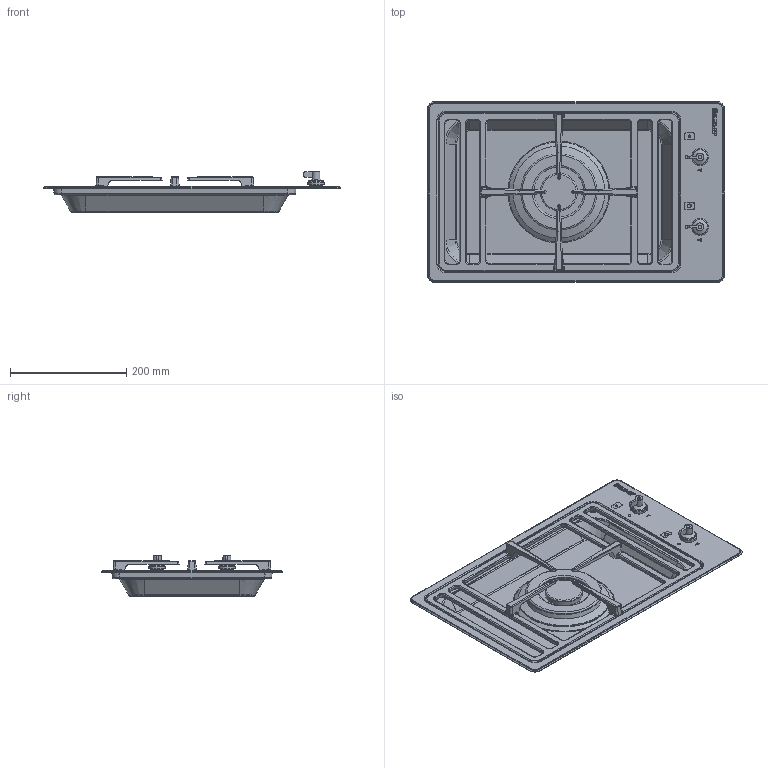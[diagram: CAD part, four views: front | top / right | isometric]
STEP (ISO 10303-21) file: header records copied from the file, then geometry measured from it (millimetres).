
FILE_DESCRIPTION(/* description */ (''),/* implementation_level */ '2;1');
FILE_NAME(/* name */ 'PGF31G-1.stp',/* time_stamp */ '2015-04-20T17:08:44+02:00',/* author */ (''),/* organization */ (''),/* preprocessor_version */ 'ST-DEVELOPER v11',/* originating_system */ 'SIEMENS PLM Software NX 7.5',/* authorisation */ '');
FILE_SCHEMA (('AUTOMOTIVE_DESIGN { 1 0 10303 214 1 1 1 1 }'));
Length unit declared in the file: millimetre
Products named in the file (1): FAVEA54A3ma5
Bounding box: 510.77 x 310.77 x 69.9 mm (x, y, z)
Volume: 701511.4 mm3; surface area: 555122.9 mm2
Topology: 13 solids, 13 shells, 967 faces, 2310 edges, 1391 vertices
Faces by surface type: cylinder 344, plane 292, torus 159, cone 86, bspline 74, sphere 12
Full cylindrical faces by diameter (mm): 1 x8, 3.2 x1, 3.5 x4, 4 x5, 4.081 x6, 4.2 x2, 4.5 x3, 5 x2, 6 x3, 6.5 x1, 6.8 x1, 7.5 x1, 8 x2, 13.5 x2, 20 x2, 22 x2, 27 x2, 29 x2, 63.5 x1, 63.9 x1, 86.2 x1, 92 x1, 131 x1, 158 x1
Entity records: 37335 total; most frequent: CARTESIAN_POINT 15102, DIRECTION 4566, ORIENTED_EDGE 4302, EDGE_CURVE 2151, AXIS2_PLACEMENT_3D 1853, VERTEX_POINT 1367, EDGE_LOOP 1148, ADVANCED_FACE 967
